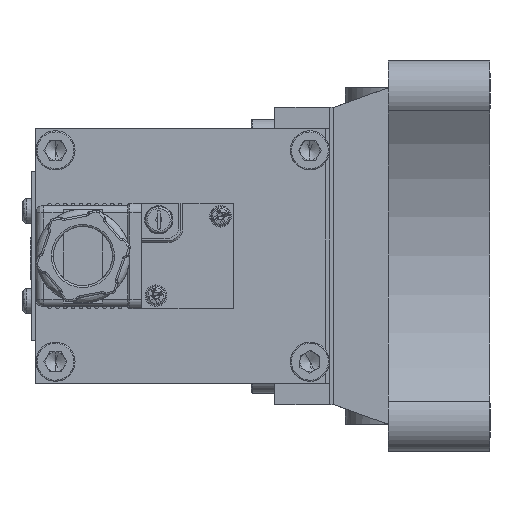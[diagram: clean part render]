
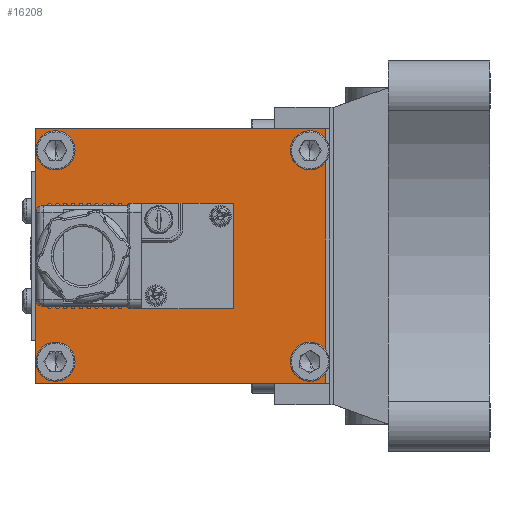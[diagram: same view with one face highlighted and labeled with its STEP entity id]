
A CAD part, left-side view. The second image highlights one B-rep face of the part: STEP entity #16208.
In plain terms, the highlighted planar face has unit normal (-1, 0, 0) as drawn and (1, 0, 0) by its records, which use the part's own axes.
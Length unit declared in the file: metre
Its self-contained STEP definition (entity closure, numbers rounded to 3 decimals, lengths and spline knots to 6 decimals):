
#63 = EDGE_CURVE ( 'NONE', #16975, #6995, #301, .T. ) ;
#301 = CIRCLE ( 'NONE', #28838, 0.003 ) ;
#556 = CARTESIAN_POINT ( 'NONE',  ( 0.08, 0.076, -0.0325 ) ) ;
#687 = DIRECTION ( 'NONE',  ( 1., 0., 0. ) ) ;
#1087 = CARTESIAN_POINT ( 'NONE',  ( 0.08, 0.076, 0. ) ) ;
#1398 = DIRECTION ( 'NONE',  ( 1., 0., 0. ) ) ;
#1800 = CARTESIAN_POINT ( 'NONE',  ( 0.08, 0.006, -0.024 ) ) ;
#1958 = VECTOR ( 'NONE', #14326, 1. ) ;
#2078 = DIRECTION ( 'NONE',  ( 0., 0., -1. ) ) ;
#2163 = EDGE_CURVE ( 'NONE', #19463, #25795, #24374, .T. ) ;
#2164 = DIRECTION ( 'NONE',  ( 1., 0., 0. ) ) ;
#2495 = FACE_BOUND ( 'NONE', #7636, .T. ) ;
#2576 = VECTOR ( 'NONE', #29155, 1. ) ;
#3426 = CIRCLE ( 'NONE', #27728, 0.003 ) ;
#4815 = ORIENTED_EDGE ( 'NONE', *, *, #20173, .F. ) ;
#4880 = CIRCLE ( 'NONE', #15074, 0.003 ) ;
#5770 = DIRECTION ( 'NONE',  ( 1., 0., 0. ) ) ;
#6105 = ORIENTED_EDGE ( 'NONE', *, *, #14175, .F. ) ;
#6187 = DIRECTION ( 'NONE',  ( 0., 0., -1. ) ) ;
#6919 = EDGE_LOOP ( 'NONE', ( #21398, #26576 ) ) ;
#6995 = VERTEX_POINT ( 'NONE', #16876 ) ;
#7075 = ORIENTED_EDGE ( 'NONE', *, *, #15211, .F. ) ;
#7132 = CIRCLE ( 'NONE', #28457, 0.003 ) ;
#7356 = ORIENTED_EDGE ( 'NONE', *, *, #13622, .F. ) ;
#7600 = EDGE_CURVE ( 'NONE', #12778, #22139, #26880, .T. ) ;
#7636 = EDGE_LOOP ( 'NONE', ( #14131, #22864 ) ) ;
#7756 = ORIENTED_EDGE ( 'NONE', *, *, #7600, .F. ) ;
#7995 = CARTESIAN_POINT ( 'NONE',  ( 0.08, 0.002, 0.0325 ) ) ;
#8075 = LINE ( 'NONE', #1087, #2576 ) ;
#8353 = CARTESIAN_POINT ( 'NONE',  ( 0.08, 0.002, 0. ) ) ;
#8977 = CIRCLE ( 'NONE', #24736, 0.003 ) ;
#9197 = VECTOR ( 'NONE', #29463, 1. ) ;
#9341 = AXIS2_PLACEMENT_3D ( 'NONE', #15352, #1398, #17741 ) ;
#9445 = CARTESIAN_POINT ( 'NONE',  ( 0.08, 0.071, 0.03 ) ) ;
#9755 = EDGE_LOOP ( 'NONE', ( #6105, #7756, #7356, #7075 ) ) ;
#10592 = VERTEX_POINT ( 'NONE', #16345 ) ;
#10691 = DIRECTION ( 'NONE',  ( 1., 0., 0. ) ) ;
#10898 = DIRECTION ( 'NONE',  ( 1., 0., 0. ) ) ;
#11160 = CARTESIAN_POINT ( 'NONE',  ( 0.08, 0.006, -0.027 ) ) ;
#11530 = CIRCLE ( 'NONE', #21399, 0.003 ) ;
#11965 = CARTESIAN_POINT ( 'NONE',  ( 0.08, 0.076, 0.0325 ) ) ;
#11981 = CARTESIAN_POINT ( 'NONE',  ( 0.08, 0.039, 0.0325 ) ) ;
#12361 = EDGE_LOOP ( 'NONE', ( #25972, #13823 ) ) ;
#12461 = CARTESIAN_POINT ( 'NONE',  ( 0.08, 0.002, -0.0325 ) ) ;
#12715 = DIRECTION ( 'NONE',  ( 0., -1., 0. ) ) ;
#12778 = VERTEX_POINT ( 'NONE', #7995 ) ;
#13458 = DIRECTION ( 'NONE',  ( 0., 0., -1. ) ) ;
#13622 = EDGE_CURVE ( 'NONE', #10592, #12778, #15372, .T. ) ;
#13823 = ORIENTED_EDGE ( 'NONE', *, *, #21264, .F. ) ;
#14066 = CARTESIAN_POINT ( 'NONE',  ( 0.08, 0.006, 0.024 ) ) ;
#14131 = ORIENTED_EDGE ( 'NONE', *, *, #2163, .F. ) ;
#14175 = EDGE_CURVE ( 'NONE', #22139, #22187, #8075, .T. ) ;
#14326 = DIRECTION ( 'NONE',  ( 0., 1., 0. ) ) ;
#14648 = CARTESIAN_POINT ( 'NONE',  ( 0.08, 0.071, 0.027 ) ) ;
#14820 = DIRECTION ( 'NONE',  ( 0., 0., 1. ) ) ;
#14893 = FACE_BOUND ( 'NONE', #21938, .T. ) ;
#15074 = AXIS2_PLACEMENT_3D ( 'NONE', #11160, #27586, #13458 ) ;
#15211 = EDGE_CURVE ( 'NONE', #22187, #10592, #24139, .T. ) ;
#15352 = CARTESIAN_POINT ( 'NONE',  ( 0.08, 0.006, 0.027 ) ) ;
#15372 = LINE ( 'NONE', #8353, #9197 ) ;
#15748 = EDGE_CURVE ( 'NONE', #25795, #19463, #21577, .T. ) ;
#15885 = VERTEX_POINT ( 'NONE', #1800 ) ;
#16064 = DIRECTION ( 'NONE',  ( 1., 0., 0. ) ) ;
#16153 = CARTESIAN_POINT ( 'NONE',  ( 0.08, 0.006, -0.027 ) ) ;
#16208 = ADVANCED_FACE ( 'NONE', ( #14893, #27449, #2495, #26688, #20473 ), #24192, .F. ) ;
#16345 = CARTESIAN_POINT ( 'NONE',  ( 0.08, 0.002, -0.0325 ) ) ;
#16876 = CARTESIAN_POINT ( 'NONE',  ( 0.08, 0.071, -0.024 ) ) ;
#16975 = VERTEX_POINT ( 'NONE', #17624 ) ;
#17027 = DIRECTION ( 'NONE',  ( 0., 0., -1. ) ) ;
#17624 = CARTESIAN_POINT ( 'NONE',  ( 0.08, 0.071, -0.03 ) ) ;
#17741 = DIRECTION ( 'NONE',  ( 0., 0., -1. ) ) ;
#17899 = VECTOR ( 'NONE', #12715, 1. ) ;
#18530 = DIRECTION ( 'NONE',  ( 0., 0., -1. ) ) ;
#18921 = EDGE_CURVE ( 'NONE', #21069, #23819, #11530, .T. ) ;
#19463 = VERTEX_POINT ( 'NONE', #14066 ) ;
#19818 = VERTEX_POINT ( 'NONE', #24065 ) ;
#19827 = CARTESIAN_POINT ( 'NONE',  ( 0.08, 0.006, 0.027 ) ) ;
#20173 = EDGE_CURVE ( 'NONE', #23819, #21069, #7132, .T. ) ;
#20435 = EDGE_CURVE ( 'NONE', #6995, #16975, #8977, .T. ) ;
#20473 = FACE_OUTER_BOUND ( 'NONE', #9755, .T. ) ;
#21059 = ORIENTED_EDGE ( 'NONE', *, *, #18921, .F. ) ;
#21069 = VERTEX_POINT ( 'NONE', #22548 ) ;
#21151 = EDGE_CURVE ( 'NONE', #19818, #15885, #4880, .T. ) ;
#21264 = EDGE_CURVE ( 'NONE', #15885, #19818, #3426, .T. ) ;
#21398 = ORIENTED_EDGE ( 'NONE', *, *, #63, .F. ) ;
#21399 = AXIS2_PLACEMENT_3D ( 'NONE', #30160, #16064, #2078 ) ;
#21577 = CIRCLE ( 'NONE', #9341, 0.003 ) ;
#21938 = EDGE_LOOP ( 'NONE', ( #21059, #4815 ) ) ;
#22116 = CARTESIAN_POINT ( 'NONE',  ( 0.08, 0.039, -0.0325 ) ) ;
#22139 = VERTEX_POINT ( 'NONE', #11965 ) ;
#22187 = VERTEX_POINT ( 'NONE', #556 ) ;
#22192 = DIRECTION ( 'NONE',  ( 0., 0., -1. ) ) ;
#22548 = CARTESIAN_POINT ( 'NONE',  ( 0.08, 0.071, 0.024 ) ) ;
#22864 = ORIENTED_EDGE ( 'NONE', *, *, #15748, .F. ) ;
#22898 = AXIS2_PLACEMENT_3D ( 'NONE', #12461, #28906, #14820 ) ;
#23819 = VERTEX_POINT ( 'NONE', #9445 ) ;
#24065 = CARTESIAN_POINT ( 'NONE',  ( 0.08, 0.006, -0.03 ) ) ;
#24139 = LINE ( 'NONE', #22116, #17899 ) ;
#24192 = PLANE ( 'NONE',  #22898 ) ;
#24374 = CIRCLE ( 'NONE', #29025, 0.003 ) ;
#24733 = CARTESIAN_POINT ( 'NONE',  ( 0.08, 0.071, -0.027 ) ) ;
#24736 = AXIS2_PLACEMENT_3D ( 'NONE', #24733, #10691, #27113 ) ;
#25795 = VERTEX_POINT ( 'NONE', #26662 ) ;
#25972 = ORIENTED_EDGE ( 'NONE', *, *, #21151, .F. ) ;
#26576 = ORIENTED_EDGE ( 'NONE', *, *, #20435, .F. ) ;
#26662 = CARTESIAN_POINT ( 'NONE',  ( 0.08, 0.006, 0.03 ) ) ;
#26688 = FACE_BOUND ( 'NONE', #12361, .T. ) ;
#26880 = LINE ( 'NONE', #11981, #1958 ) ;
#27113 = DIRECTION ( 'NONE',  ( 0., 0., -1. ) ) ;
#27342 = CARTESIAN_POINT ( 'NONE',  ( 0.08, 0.071, -0.027 ) ) ;
#27449 = FACE_BOUND ( 'NONE', #6919, .T. ) ;
#27586 = DIRECTION ( 'NONE',  ( 1., 0., 0. ) ) ;
#27728 = AXIS2_PLACEMENT_3D ( 'NONE', #16153, #2164, #18530 ) ;
#28457 = AXIS2_PLACEMENT_3D ( 'NONE', #14648, #687, #17027 ) ;
#28838 = AXIS2_PLACEMENT_3D ( 'NONE', #27342, #10898, #6187 ) ;
#28906 = DIRECTION ( 'NONE',  ( -1., 0., 0. ) ) ;
#29025 = AXIS2_PLACEMENT_3D ( 'NONE', #19827, #5770, #22192 ) ;
#29155 = DIRECTION ( 'NONE',  ( 0., 0., -1. ) ) ;
#29463 = DIRECTION ( 'NONE',  ( 0., 0., 1. ) ) ;
#30160 = CARTESIAN_POINT ( 'NONE',  ( 0.08, 0.071, 0.027 ) ) ;
